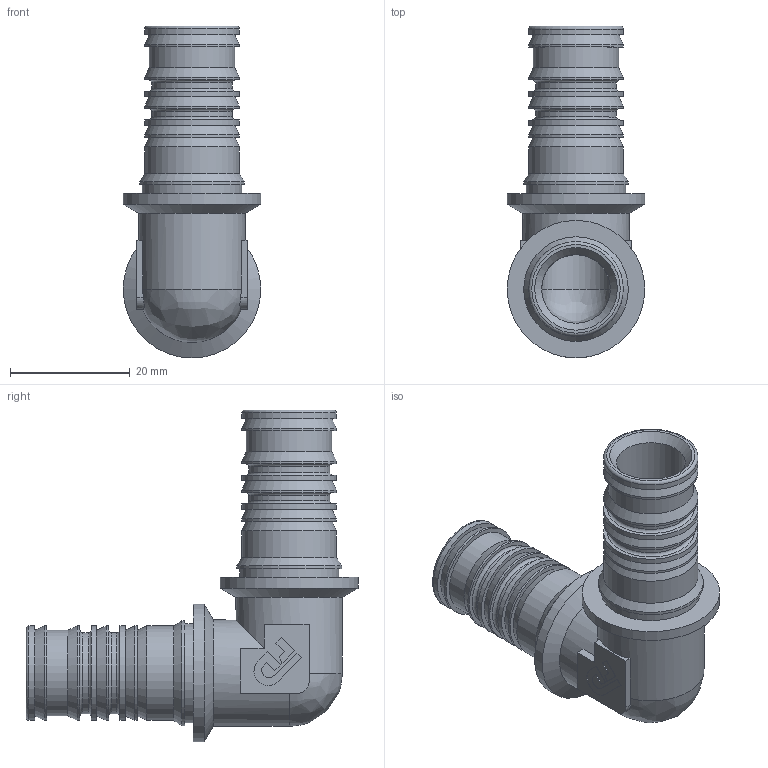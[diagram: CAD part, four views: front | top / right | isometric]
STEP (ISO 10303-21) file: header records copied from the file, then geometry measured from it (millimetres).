
FILE_DESCRIPTION(/* description */ (''),/* implementation_level */ '2;1');
FILE_NAME(/* name */ 'C:\Users\Doom\Desktop\Фадотех\Пресс\HDU02-1 15.01.2020\HDU02-1 15.01.2020.stp',/* time_stamp */ '2022-08-12T22:53:39+03:00',/* author */ ('Doom'),/* organization */ (''),/* preprocessor_version */ 'ST-DEVELOPER v18',/* originating_system */ 'Autodesk Inventor 2020',/* authorisation */ '');
FILE_SCHEMA (('AUTOMOTIVE_DESIGN { 1 0 10303 214 3 1 1 }'));
Length unit declared in the file: millimetre
Products named in the file (1): HDU01-1 15.01.2020
Bounding box: 23 x 55.5 x 55.5 mm (x, y, z)
Volume: 9799.2 mm3; surface area: 9280.5 mm2
Topology: 1 solids, 1 shells, 140 faces, 396 edges, 282 vertices
Faces by surface type: plane 70, cylinder 34, cone 16, torus 10, bspline 10
Full cylindrical faces by diameter (mm): 11.5 x2, 13.5 x4, 14.3 x2, 15.8 x16, 16.6 x2, 17.5 x2, 17.8 x2, 23 x2
Entity records: 4855 total; most frequent: CARTESIAN_POINT 1015, DIRECTION 824, ORIENTED_EDGE 788, EDGE_CURVE 394, AXIS2_PLACEMENT_3D 325, VERTEX_POINT 282, CIRCLE 191, LINE 174
